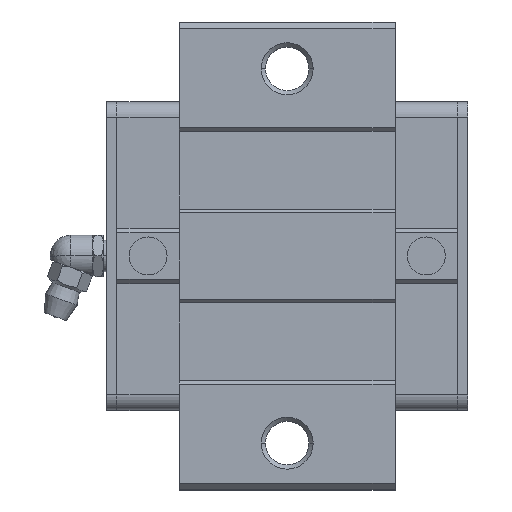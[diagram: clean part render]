
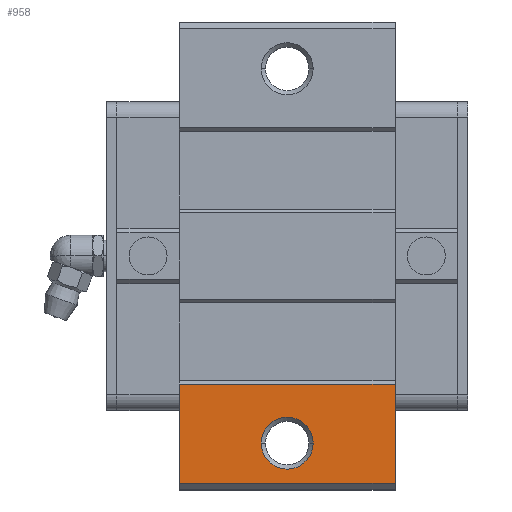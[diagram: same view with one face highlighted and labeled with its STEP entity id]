
A CAD part, top view. The second image highlights one B-rep face of the part: STEP entity #958.
In plain terms, the highlighted planar face has unit normal (0, 0, 1).
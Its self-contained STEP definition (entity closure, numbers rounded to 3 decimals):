
#334=CARTESIAN_POINT('POINT27',(29.75,-36.,32.));
#335=VERTEX_POINT('VERTEX27',#334);
#343=CARTESIAN_POINT('POINT28',(39.75,-36.,32.));
#344=VERTEX_POINT('VERTEX28',#343);
#351=CARTESIAN_POINT('POS37',(34.75,-36.,32.));
#352=DIRECTION('DIR57',(0.,0.,-1.));
#353=DIRECTION('DIR58',(1.,0.,0.));
#354=AXIS2_PLACEMENT_3D('AXIS21',#351,#352,#353);
#355=CIRCLE('ELLIPSE13',#354,5.);
#356=EDGE_CURVE('EDGE38',#335,#344,#355,.T.);
#367=EDGE_CURVE('EDGE39',#344,#335,#355,.T.);
#893=CARTESIAN_POINT('POINT63',(55.5,-43.7,32.));
#894=VERTEX_POINT('VERTEX63',#893);
#901=CARTESIAN_POINT('POINT64',(14.,-43.7,32.));
#902=VERTEX_POINT('VERTEX64',#901);
#903=CARTESIAN_POINT('POS96',(14.,-43.7,32.));
#904=DIRECTION('DIR143',(1.,0.,0.));
#905=VECTOR('VEC49',#904,1.);
#906=LINE('STRAIGHT49',#903,#905);
#907=EDGE_CURVE('EDGE93',#902,#894,#906,.T.);
#924=ORIENTED_EDGE('COEDGE152',*,*,#367,.T.);
#925=ORIENTED_EDGE('COEDGE153',*,*,#356,.T.);
#926=EDGE_LOOP('NONE',(#924,#925));
#927=FACE_BOUND('LOOP1',#926,.T.);
#928=CARTESIAN_POINT('POINT65',(55.5,-24.651,32.));
#929=VERTEX_POINT('VERTEX65',#928);
#930=CARTESIAN_POINT('POS99',(55.5,-24.651,32.));
#931=DIRECTION('DIR147',(0.,1.,0.));
#932=VECTOR('VEC51',#931,1.);
#933=LINE('STRAIGHT51',#930,#932);
#934=EDGE_CURVE('EDGE95',#894,#929,#933,.T.);
#935=ORIENTED_EDGE('COEDGE154',*,*,#934,.T.);
#936=CARTESIAN_POINT('POINT66',(14.,-24.651,32.));
#937=VERTEX_POINT('VERTEX66',#936);
#938=CARTESIAN_POINT('POS100',(14.,-24.651,32.));
#939=DIRECTION('DIR148',(1.,0.,0.));
#940=VECTOR('VEC52',#939,1.);
#941=LINE('STRAIGHT52',#938,#940);
#942=EDGE_CURVE('EDGE96',#937,#929,#941,.T.);
#943=ORIENTED_EDGE('COEDGE155',*,*,#942,.F.);
#944=CARTESIAN_POINT('POS101',(14.,-24.651,32.));
#945=DIRECTION('DIR149',(0.,-1.,0.));
#946=VECTOR('VEC53',#945,1.);
#947=LINE('STRAIGHT53',#944,#946);
#948=EDGE_CURVE('EDGE97',#937,#902,#947,.T.);
#949=ORIENTED_EDGE('COEDGE156',*,*,#948,.T.);
#950=ORIENTED_EDGE('COEDGE157',*,*,#907,.T.);
#951=EDGE_LOOP('NONE',(#935,#943,#949,#950));
#952=FACE_BOUND('LOOP1',#951,.T.);
#953=CARTESIAN_POINT('POS102',(14.,-43.7,32.));
#954=DIRECTION('DIR150',(0.,0.,1.));
#955=DIRECTION('DIR151',(1.,0.,0.));
#956=AXIS2_PLACEMENT_3D('AXIS49',#953,#954,#955);
#957=PLANE('PLANE16',#956);
#958=ADVANCED_FACE('FACE31',(#927,#952),#957,.T.);
